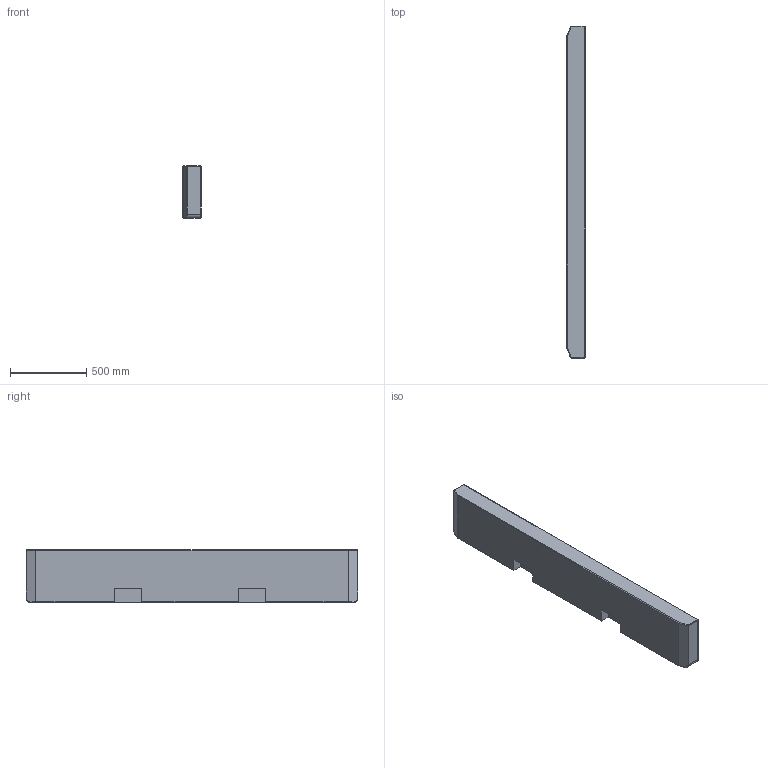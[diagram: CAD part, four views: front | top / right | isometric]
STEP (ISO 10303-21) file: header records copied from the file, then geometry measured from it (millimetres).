
FILE_DESCRIPTION(('CATIA V5 STEP Exchange'),'2;1');
FILE_NAME('E:\工作\张长江\H6-长卧铺数据制作\卧铺数据-1217\外发数据-20230203\SHT0015466.stp','2023-02-03T03:26:25+00:00',('none'),('none'),'CATIA Version 5 Release 20 GA (IN-10)','CATIA V5 STEP AP214','none');
FILE_SCHEMA(('AUTOMOTIVE_DESIGN { 1 0 10303 214 1 1 1 1 }'));
Length unit declared in the file: millimetre
Products named in the file (1): SHT0015466
Bounding box: 118.2 x 2177 x 347 mm (x, y, z)
Volume: 86542853.1 mm3; surface area: 2092212.3 mm2
Topology: 1 solids, 1 shells, 51 faces, 145 edges, 86 vertices
Faces by surface type: cylinder 20, plane 16, bspline 7, sphere 6, torus 2
Entity records: 3794 total; most frequent: CARTESIAN_POINT 2603, ORIENTED_EDGE 270, DIRECTION 189, EDGE_CURVE 135, VERTEX_POINT 86, AXIS2_PLACEMENT_3D 73, VECTOR 73, LINE 73
